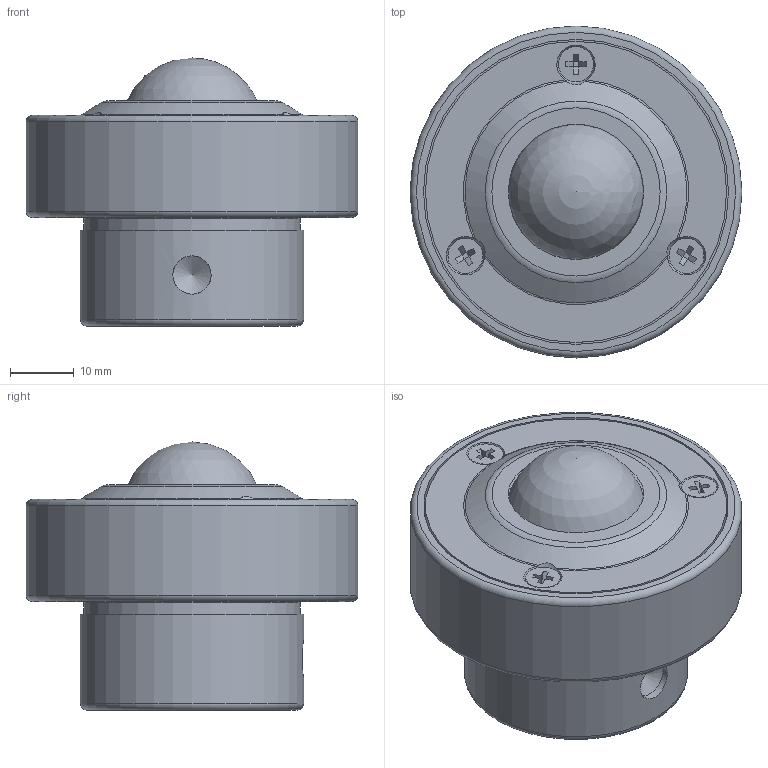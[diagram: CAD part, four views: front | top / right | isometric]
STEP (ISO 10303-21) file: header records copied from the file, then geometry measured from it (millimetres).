
FILE_DESCRIPTION(/* description */ (''),/* implementation_level */ '2;1');
FILE_NAME(/* name */ 'Z:\80-CAD共有ファイル\製品3D\X2\30C730FC30BF\X0\\21-S\S-22.stp',/* time_stamp */ '2015-01-06T16:05:41+09:00',/* author */ ('yamaki'),/* organization */ (''),/* preprocessor_version */ 'ST-DEVELOPER v15.6',/* originating_system */ 'Autodesk Inventor 2015',/* authorisation */ '');
FILE_SCHEMA (('AUTOMOTIVE_DESIGN { 1 0 10303 214 3 1 1 }'));
Length unit declared in the file: millimetre
Products named in the file (3): 2122AT-01; 2222; 2122AT
Bounding box: 52 x 52 x 42 mm (x, y, z)
Volume: 52998.1 mm3; surface area: 11464.9 mm2
Topology: 2 solids, 2 shells, 75 faces, 162 edges, 97 vertices
Faces by surface type: plane 50, cylinder 9, torus 8, cone 6, sphere 2
Full cylindrical faces by diameter (mm): 5.5 x3, 6 x1, 34 x1, 35 x1, 47.2 x1, 47.8 x1, 52 x1
Entity records: 1979 total; most frequent: CARTESIAN_POINT 390, DIRECTION 314, ORIENTED_EDGE 260, EDGE_CURVE 130, AXIS2_PLACEMENT_3D 115, EDGE_LOOP 104, VERTEX_POINT 88, LINE 84
